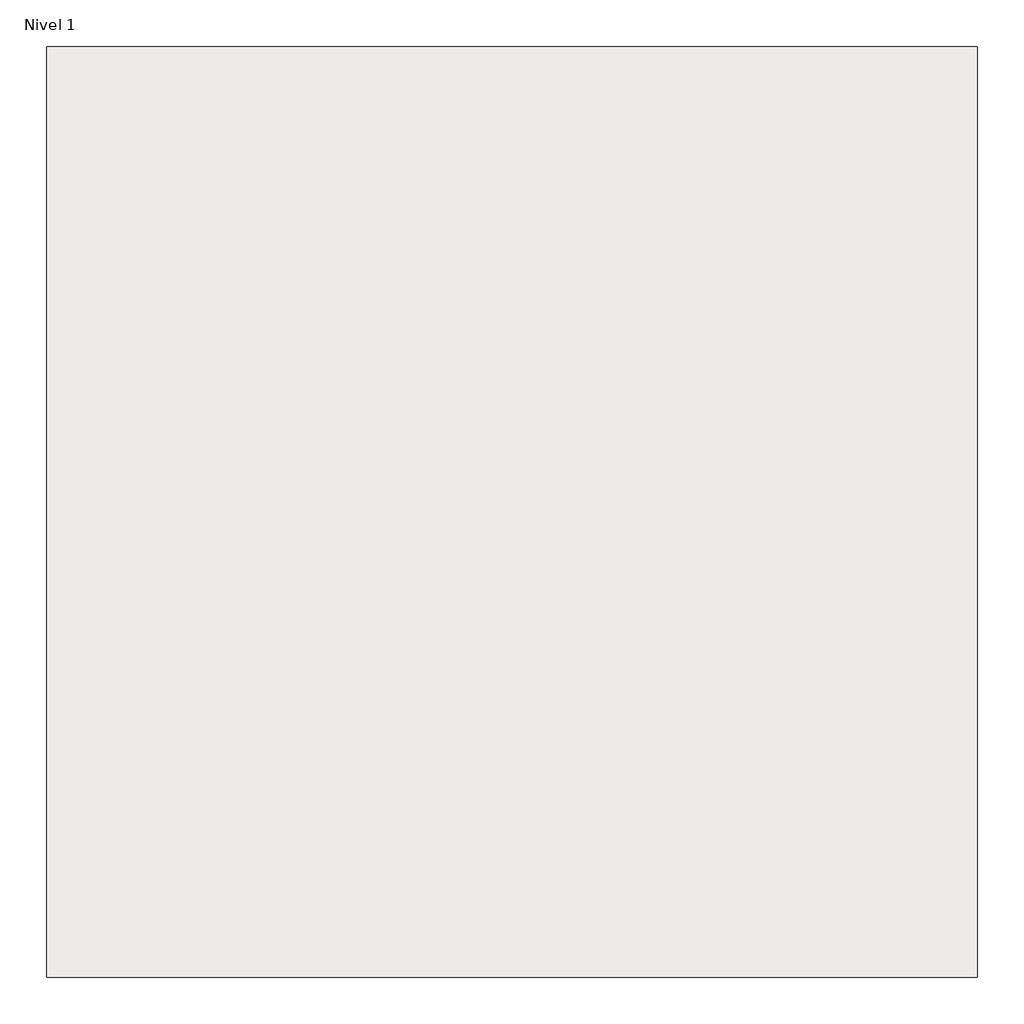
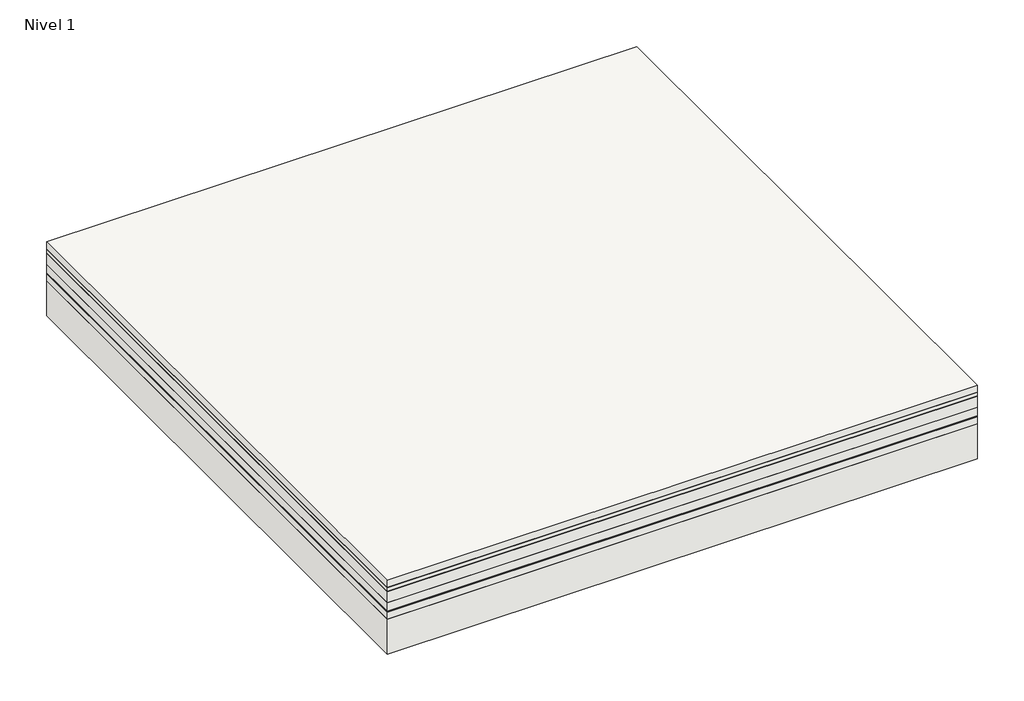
# One storey: 1 roof.
"""IFC4 building model written with IfcOpenShell, lengths in millimetres."""

from ifc_helpers import new_model, si_unit, frame, origin, origin_with_axes, place, context, project, spatial, polyline, outline, extrude, element, save

model = new_model("IFC4")

# Units and contexts
model_context = context("Model", 3, world=origin())
ifc_project = project(units=[si_unit("LENGTHUNIT", "METRE", prefix="MILLI")], contexts=[model_context])

# Site, building, storey
site = spatial("IfcSite", under=ifc_project)
building = spatial("IfcBuilding", under=site)
storey = spatial("IfcBuildingStorey", under=building, Name="Nivel 1", Elevation=0.0)

# Roof
placement = place(None, origin())
element("IfcRoof", 1, ObjectType="CubiertaSostenible-Ajardinada_ExtensivaProjar_BIAJ_EXT_PLUS", at=placement, inside=storey, context=model_context, shape_type="SweptSolid", body=[
    extrude(outline(polyline([(-2544.9527165, -3086.8428917), (-6544.9527165, -3086.8428917), (-6544.9527165, 913.1571083), (-2544.9527165, 913.1571083), (-2544.9527165, -3086.8428917)])), frame((0.0, 0.0, 477.0), z_axis=(0.0, 0.0, 1.0), x_axis=(1.0, 0.0, 0.0)), (0.0, 0.0, 1.0), 50.0),
    extrude(outline(polyline([(-2544.9527165, -3086.8428917), (-6544.9527165, -3086.8428917), (-6544.9527165, 913.1571083), (-2544.9527165, 913.1571083), (-2544.9527165, -3086.8428917)])), frame((0.0, 0.0, 475.0), z_axis=(0.0, 0.0, 1.0), x_axis=(1.0, 0.0, 0.0)), (0.0, 0.0, 1.0), 2.0),
    extrude(outline(polyline([(-2544.9527165, -3086.8428917), (-6544.9527165, -3086.8428917), (-6544.9527165, 913.1571083), (-2544.9527165, 913.1571083), (-2544.9527165, -3086.8428917)])), frame((0.0, 0.0, 450.0), z_axis=(0.0, 0.0, 1.0), x_axis=(1.0, 0.0, 0.0)), (0.0, 0.0, 1.0), 25.0),
    extrude(outline(polyline([(-2544.9527165, -3086.8428917), (-6544.9527165, -3086.8428917), (-6544.9527165, 913.1571083), (-2544.9527165, 913.1571083), (-2544.9527165, -3086.8428917)])), frame((0.0, 0.0, 448.0), z_axis=(0.0, 0.0, 1.0), x_axis=(1.0, 0.0, 0.0)), (0.0, 0.0, 1.0), 2.0),
    extrude(outline(polyline([(-2544.9527165, -3086.8428917), (-6544.9527165, -3086.8428917), (-6544.9527165, 913.1571083), (-2544.9527165, 913.1571083), (-2544.9527165, -3086.8428917)])), frame((0.0, 0.0, 368.0), z_axis=(0.0, 0.0, 1.0), x_axis=(1.0, 0.0, 0.0)), (0.0, 0.0, 1.0), 80.0),
    extrude(outline(polyline([(-2544.9527165, -3086.8428917), (-6544.9527165, -3086.8428917), (-6544.9527165, 913.1571083), (-2544.9527165, 913.1571083), (-2544.9527165, -3086.8428917)])), frame((0.0, 0.0, 308.0), z_axis=(0.0, 0.0, 1.0), x_axis=(1.0, 0.0, 0.0)), (0.0, 0.0, 1.0), 60.0),
    extrude(outline(polyline([(-2544.9527165, -3086.8428917), (-6544.9527165, -3086.8428917), (-6544.9527165, 913.1571083), (-2544.9527165, 913.1571083), (-2544.9527165, -3086.8428917)])), frame((0.0, 0.0, 306.0), z_axis=(0.0, 0.0, 1.0), x_axis=(1.0, 0.0, 0.0)), (0.0, 0.0, 1.0), 2.0),
    extrude(outline(polyline([(-2544.9527165, -3086.8428917), (-6544.9527165, -3086.8428917), (-6544.9527165, 913.1571083), (-2544.9527165, 913.1571083), (-2544.9527165, -3086.8428917)])), frame((0.0, 0.0, 304.0), z_axis=(0.0, 0.0, 1.0), x_axis=(1.0, 0.0, 0.0)), (0.0, 0.0, 1.0), 2.0),
    extrude(outline(polyline([(-2544.9527165, -3086.8428917), (-6544.9527165, -3086.8428917), (-6544.9527165, 913.1571083), (-2544.9527165, 913.1571083), (-2544.9527165, -3086.8428917)])), frame((0.0, 0.0, 302.0), z_axis=(0.0, 0.0, 1.0), x_axis=(1.0, 0.0, 0.0)), (0.0, 0.0, 1.0), 2.0),
    extrude(outline(polyline([(-2544.9527165, -3086.8428917), (-6544.9527165, -3086.8428917), (-6544.9527165, 913.1571083), (-2544.9527165, 913.1571083), (-2544.9527165, -3086.8428917)])), frame((0.0, 0.0, 300.0), z_axis=(0.0, 0.0, 1.0), x_axis=(1.0, 0.0, 0.0)), (0.0, 0.0, 1.0), 2.0),
    extrude(outline(polyline([(-2544.9527165, -3086.8428917), (-6544.9527165, -3086.8428917), (-6544.9527165, 913.1571083), (-2544.9527165, 913.1571083), (-2544.9527165, -3086.8428917)])), frame((0.0, 0.0, 250.0), z_axis=(0.0, 0.0, 1.0), x_axis=(1.0, 0.0, 0.0)), (0.0, 0.0, 1.0), 50.0),
    extrude(outline(polyline([(-2544.9527165, -3086.8428917), (-6544.9527165, -3086.8428917), (-6544.9527165, 913.1571083), (-2544.9527165, 913.1571083), (-2544.9527165, -3086.8428917)])), origin_with_axes(), (0.0, 0.0, 1.0), 250.0),
])

save(model, "model.ifc")
